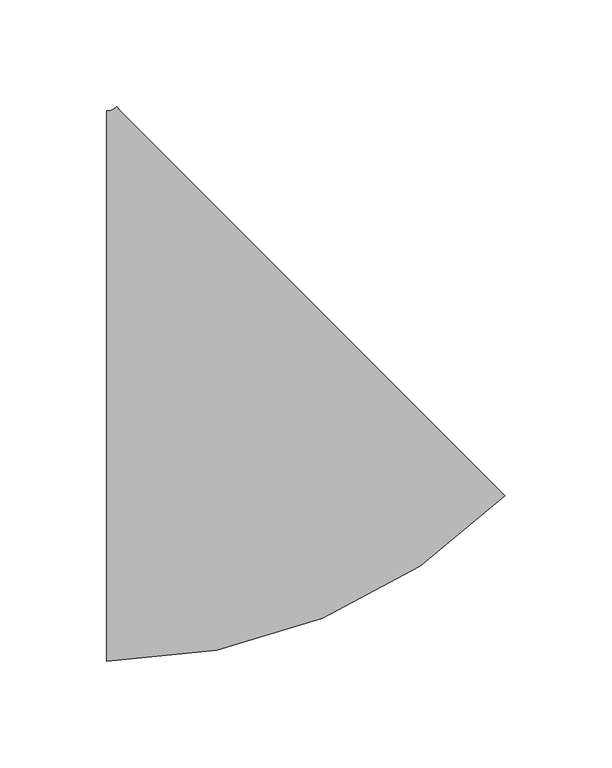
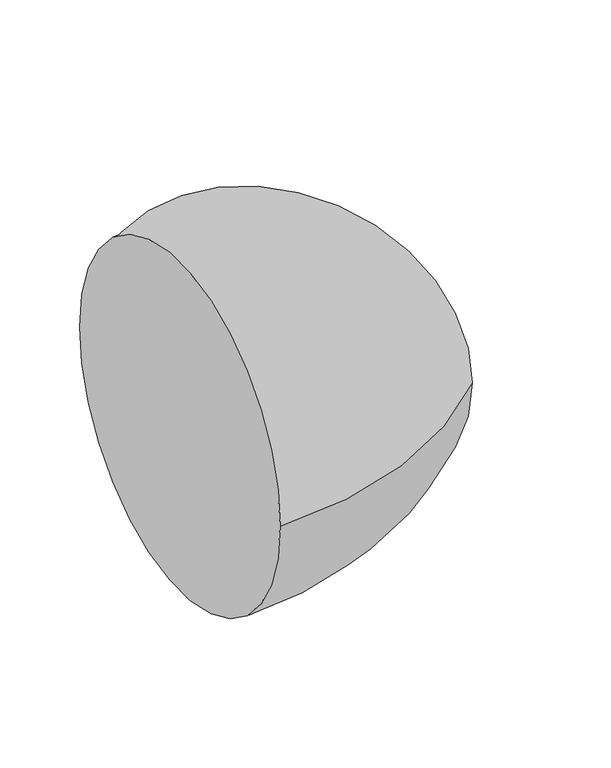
"""IFC4 building model written with IfcOpenShell, lengths in millimetres: pipe fitting geometry, M_Codo - Genérico : Estándar."""

from ifc_helpers import new_model, si_unit, point, frame, origin, place, context, project, spatial, circle_curve, ellipse_curve, trimmed, source, transform, mapped, element, save
from ifc_brep_helpers import plane_surface, revolved_surface, advanced_brep


def pipe_fitting_58729e57(model_context):
    return source(origin(), model_context, "Body", "AdvancedBrep", [
        advanced_brep(
        [(-55.8896687, -128.5875, 0.0), (-55.8896687, 128.5875, 0.0), (130.4429278, -51.4105322, 0.0), (-51.3997266, 130.447186, 0.0)],
        [
            (0, 1, circle_curve(frame((-55.8896687, 0.0, 0.0), z_axis=(-1.0, 0.0, 0.0), x_axis=(0.0, 1.0, 0.0)), 128.5875)),
            (1, 0, circle_curve(frame((-55.8896687, 0.0, 0.0), z_axis=(-1.0, 0.0, 0.0), x_axis=(0.0, 1.0, 0.0)), 128.5875)),
            (2, 3, circle_curve(frame((39.5216006, 39.5183269, 0.0), z_axis=(0.7071360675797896, 0.7070774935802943, 0.0), x_axis=(-0.7070774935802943, 0.7071360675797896, 0.0)), 128.5875)),
            (3, 2, circle_curve(frame((39.5216006, 39.5183269, 0.0), z_axis=(0.7071360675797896, 0.7070774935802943, 0.0), x_axis=(-0.7070774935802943, 0.7071360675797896, 0.0)), 128.5875)),
            (3, 1, circle_curve(frame((-55.8896687, 134.9375, 0.0), z_axis=(0.0, 0.0, -1.0), x_axis=(0.0, -1.0, 0.0)), 6.35)),
            (0, 2, circle_curve(frame((-55.8896687, 134.9375, 0.0), z_axis=(0.0, 0.0, 1.0), x_axis=(0.0, -1.0, 0.0)), 263.525)),
        ],
        [
            plane_surface(frame((-55.8896687, 0.0, 0.0), z_axis=(-1.0, 0.0, 0.0), x_axis=(0.0, 0.0, 1.0))),
            plane_surface(frame((39.5216006, 39.5183269, 0.0), z_axis=(0.7071360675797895, 0.7070774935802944, 0.0), x_axis=(0.0, 0.0, 1.0))),
            revolved_surface(trimmed(ellipse_curve(frame((-55.8896687, 0.0, 0.0), z_axis=(-1.0, 0.0, 0.0), x_axis=(0.0, 1.0, 0.0)), 128.5875, 128.5875), [point((-55.8896687, -128.5875, 0.0))], [point((-55.8896687, 128.5875, 0.0))], True, "CARTESIAN"), (-55.8896687, 134.9375, 0.0), (0.0, 0.0, 1.0)),
            revolved_surface(trimmed(ellipse_curve(frame((-55.8896687, 0.0, 0.0), z_axis=(-1.0, 0.0, 0.0), x_axis=(0.0, 1.0, 0.0)), 128.5875, 128.5875), [point((-55.8896687, 128.5875, 0.0))], [point((-55.8896687, -128.5875, 0.0))], True, "CARTESIAN"), (-55.8896687, 134.9375, 0.0), (0.0, 0.0, 1.0)),
        ],
        [
            (0, [[1, 2]]),
            (1, [[3, 4]]),
            (2, [[5, -1, 6, -4]]),
            (3, [[-6, -2, -5, -3]]),
        ],
    ),
    ])


if __name__ == "__main__":
    model = new_model("IFC4")
    model_context = context("Model", 3, world=origin())
    ifc_project = project(units=[si_unit("LENGTHUNIT", "METRE", prefix="MILLI")], contexts=[model_context])
    site = spatial("IfcSite", under=ifc_project)
    building = spatial("IfcBuilding", under=site)
    placement = place(None, origin())
    pipe_fitting_shape = pipe_fitting_58729e57(model_context)
    element("IfcPipeFitting", 1, ObjectType="M_Codo - Genérico : Estándar", at=placement, inside=building, context=model_context, shape_type="MappedRepresentation", body=[
        mapped(pipe_fitting_shape, transform((0.0, 0.0, 0.0), x_axis=(1.0, 0.0, 0.0), y_axis=(0.0, 1.0, 0.0), z_axis=(0.0, 0.0, 1.0))),
    ])
    save(model, "model.ifc")
